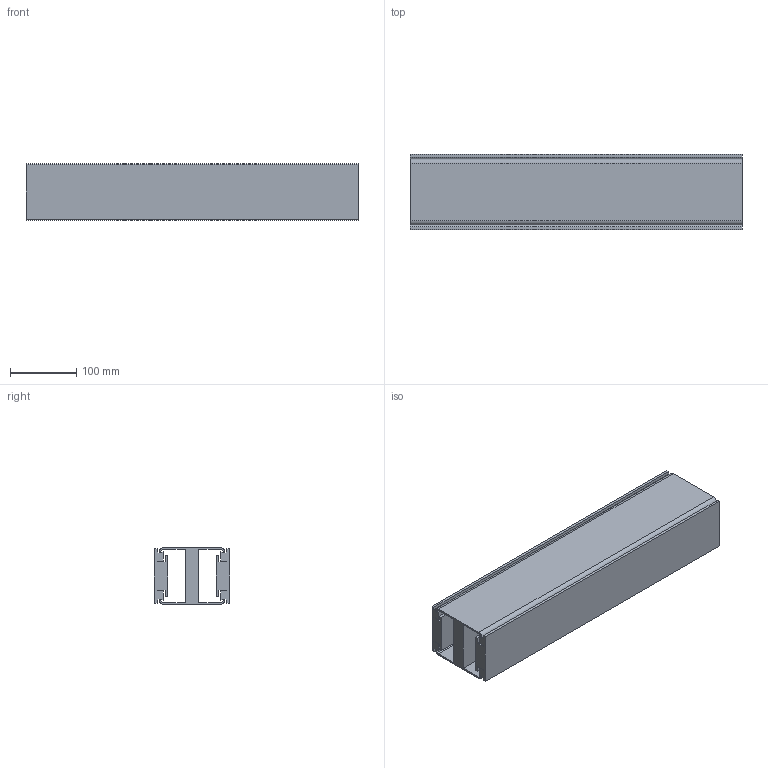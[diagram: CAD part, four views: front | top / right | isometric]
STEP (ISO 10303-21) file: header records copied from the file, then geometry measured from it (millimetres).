
FILE_DESCRIPTION (( 'STEP AP214' ), '1' );
FILE_NAME ('VC.85 Rechte baansectie.STEP', '2016-10-19T07:11:46', ( '' ), ( '' ), 'SwSTEP 2.0', 'SolidWorks 2016', '' );
FILE_SCHEMA (( 'AUTOMOTIVE_DESIGN' ));
Length unit declared in the file: millimetre
Products named in the file (1): VC.85 Rechte baansectie
Bounding box: 500 x 113 x 85 mm (x, y, z)
Volume: 2383565.1 mm3; surface area: 553887.6 mm2
Topology: 1 solids, 1 shells, 70 faces, 204 edges, 136 vertices
Faces by surface type: plane 62, cylinder 8
Entity records: 2326 total; most frequent: CARTESIAN_POINT 411, ORIENTED_EDGE 408, DIRECTION 362, EDGE_CURVE 204, LINE 188, VECTOR 188, VERTEX_POINT 136, AXIS2_PLACEMENT_3D 87
